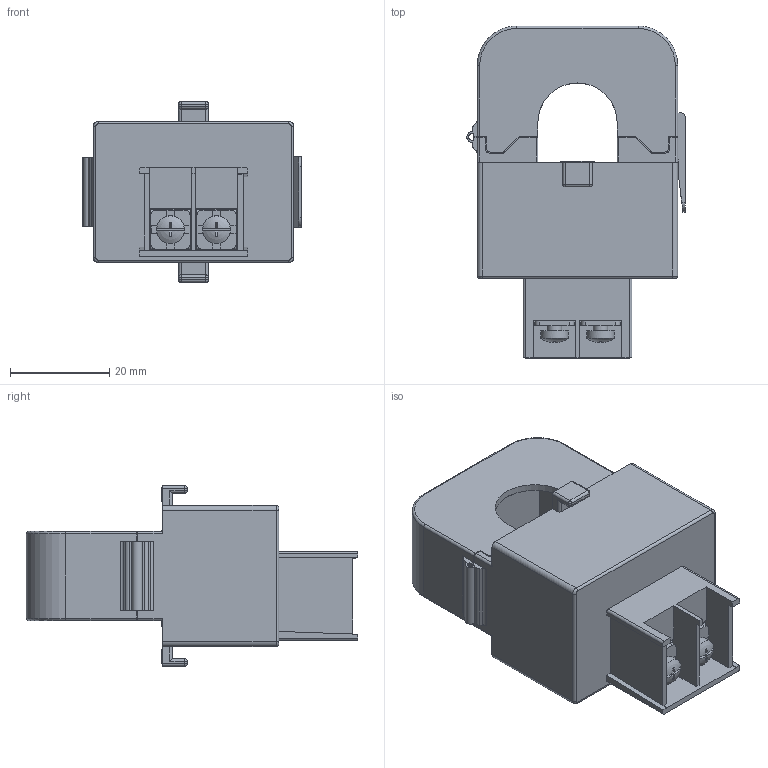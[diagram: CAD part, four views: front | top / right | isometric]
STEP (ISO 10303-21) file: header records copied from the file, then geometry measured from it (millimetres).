
FILE_DESCRIPTION(('Creo Elements/Direct Modeling STEP Export'),'2;1');
FILE_NAME('AT-B5 BLACKBOX.stp','2019-09-03T18:05:11',(''),(''),'Creo Elements/Direct Modeling STEP processor for AP214 (Solid Model)','Creo Elements/Direct Modeling 20.1 10-Mar-2018 (C) Parametric Technology GmbH','');
FILE_SCHEMA(('AUTOMOTIVE_DESIGN { 1 0 10303 214 1 1 1 1 }'));
Length unit declared in the file: millimetre
Products named in the file (1): AT-B5_Blackbox
Bounding box: 44.1 x 67 x 36.5 mm (x, y, z)
Volume: 46038.6 mm3; surface area: 12415.1 mm2
Topology: 1 solids, 1 shells, 376 faces, 1051 edges, 670 vertices
Faces by surface type: plane 254, cylinder 102, sphere 12, torus 8
Entity records: 11373 total; most frequent: ORIENTED_EDGE 2086, CARTESIAN_POINT 1963, DIRECTION 1850, EDGE_CURVE 1043, VECTOR 736, LINE 736, VERTEX_POINT 670, AXIS2_PLACEMENT_3D 557
